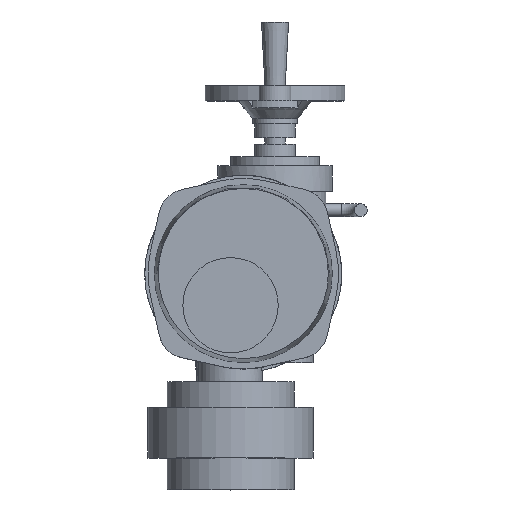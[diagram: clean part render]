
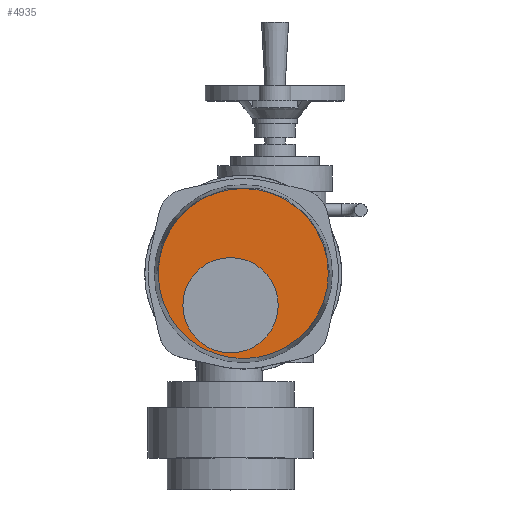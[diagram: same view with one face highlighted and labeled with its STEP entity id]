
A CAD part, top view. The second image highlights one B-rep face of the part: STEP entity #4935.
In plain terms, the highlighted planar face has unit normal (0, 0, 1).
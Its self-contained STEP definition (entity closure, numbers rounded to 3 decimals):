
#4935=ADVANCED_FACE('',(#10405,#10407),#10409,.T.);
#10405=FACE_BOUND('',#10406,.T.);
#10406=EDGE_LOOP('',(#14329));
#10407=FACE_BOUND('',#10408,.T.);
#10408=EDGE_LOOP('',(#14330));
#10409=PLANE('',#10410);
#10410=AXIS2_PLACEMENT_3D('',#10411,#10412,#10413);
#10411=CARTESIAN_POINT('',(15.,30.,382.));
#10412=DIRECTION('',(0.,0.,1.));
#10413=DIRECTION('',(-1.,0.,0.));
#14329=ORIENTED_EDGE('',*,*,#16277,.T.);
#14330=ORIENTED_EDGE('',*,*,#17108,.F.);
#16277=EDGE_CURVE('',#18853,#18853,#18854,.T.);
#17108=EDGE_CURVE('',#20097,#20097,#20098,.T.);
#18853=VERTEX_POINT('',#24880);
#18854=CIRCLE('',#24881,66.908);
#20097=VERTEX_POINT('',#28096);
#20098=CIRCLE('',#28097,37.5);
#24880=CARTESIAN_POINT('',(-51.908,30.,382.));
#24881=AXIS2_PLACEMENT_3D('',#24882,#24883,#24884);
#24882=CARTESIAN_POINT('',(15.,30.,382.));
#24883=DIRECTION('',(0.,0.,1.));
#24884=DIRECTION('',(-1.,0.,0.));
#28096=CARTESIAN_POINT('',(-32.5,5.,382.));
#28097=AXIS2_PLACEMENT_3D('',#28098,#28099,#28100);
#28098=CARTESIAN_POINT('',(5.,5.,382.));
#28099=DIRECTION('',(0.,0.,1.));
#28100=DIRECTION('',(-1.,0.,0.));
